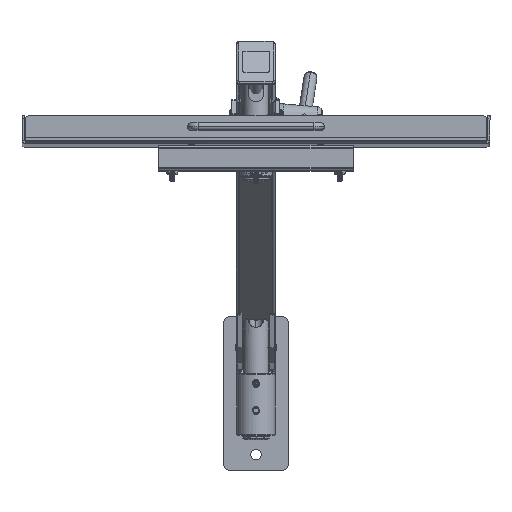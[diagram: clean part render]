
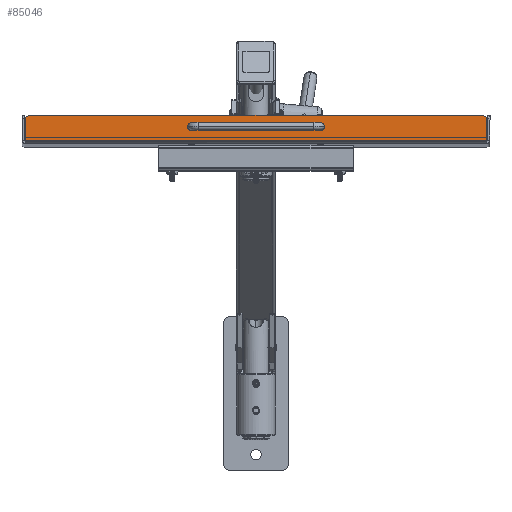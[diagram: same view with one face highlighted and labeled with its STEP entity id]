
A CAD part, top view. The second image highlights one B-rep face of the part: STEP entity #85046.
In plain terms, the highlighted planar face has unit normal (0, 0.011, 1) as drawn and (0, 0, 1) by its records, which use the part's own axes.
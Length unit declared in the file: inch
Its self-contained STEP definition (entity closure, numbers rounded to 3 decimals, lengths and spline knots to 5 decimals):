
#2576 = CARTESIAN_POINT ( 'NONE',  ( -8.75, 1., 6.09 ) ) ;
#2862 = VECTOR ( 'NONE', #50314, 39.37008 ) ;
#2929 = AXIS2_PLACEMENT_3D ( 'NONE', #56909, #63807, #28496 ) ;
#3552 = AXIS2_PLACEMENT_3D ( 'NONE', #79359, #36205, #51352 ) ;
#5333 = VECTOR ( 'NONE', #76548, 39.37008 ) ;
#6721 = ORIENTED_EDGE ( 'NONE', *, *, #22292, .F. ) ;
#7379 = CARTESIAN_POINT ( 'NONE',  ( -2.5, 0.55, 6.09 ) ) ;
#8152 = CARTESIAN_POINT ( 'NONE',  ( -2.5, 0.55, 6.09 ) ) ;
#9562 = VERTEX_POINT ( 'NONE', #2576 ) ;
#13638 = DIRECTION ( 'NONE',  ( 0., 0., -1. ) ) ;
#15781 = CARTESIAN_POINT ( 'NONE',  ( 2.5, 0.55, 6.09 ) ) ;
#15933 = CARTESIAN_POINT ( 'NONE',  ( 8.75, 0.032, 6.09 ) ) ;
#16311 = ORIENTED_EDGE ( 'NONE', *, *, #84801, .T. ) ;
#16567 = EDGE_LOOP ( 'NONE', ( #30482, #52041 ) ) ;
#18373 = VERTEX_POINT ( 'NONE', #84636 ) ;
#19620 = DIRECTION ( 'NONE',  ( 0., -1., 0. ) ) ;
#21323 = AXIS2_PLACEMENT_3D ( 'NONE', #8152, #57675, #22400 ) ;
#21849 = VERTEX_POINT ( 'NONE', #75746 ) ;
#21942 = CARTESIAN_POINT ( 'NONE',  ( 8.96464, 0.75, 6.09 ) ) ;
#22292 = EDGE_CURVE ( 'NONE', #26368, #9562, #36667, .T. ) ;
#22318 = CARTESIAN_POINT ( 'NONE',  ( 8.96464, 0.87817, 6.09 ) ) ;
#22400 = DIRECTION ( 'NONE',  ( -1., 0., 0. ) ) ;
#22972 = DIRECTION ( 'NONE',  ( 0., -1., 0. ) ) ;
#23557 = DIRECTION ( 'NONE',  ( 0., 0., -1. ) ) ;
#24300 = CARTESIAN_POINT ( 'NONE',  ( -8.96464, 0.87817, 6.09 ) ) ;
#24874 = AXIS2_PLACEMENT_3D ( 'NONE', #7379, #29847, #77145 ) ;
#24994 = LINE ( 'NONE', #80524, #42521 ) ;
#25665 = EDGE_LOOP ( 'NONE', ( #45968, #38953, #34542, #6721, #16311, #62554 ) ) ;
#26368 = VERTEX_POINT ( 'NONE', #24300 ) ;
#28496 = DIRECTION ( 'NONE',  ( 0., -1., 0. ) ) ;
#29373 = FACE_BOUND ( 'NONE', #16567, .T. ) ;
#29477 = EDGE_CURVE ( 'NONE', #9562, #21849, #59357, .T. ) ;
#29847 = DIRECTION ( 'NONE',  ( 0., 0., -1. ) ) ;
#30413 = AXIS2_PLACEMENT_3D ( 'NONE', #15781, #23557, #85494 ) ;
#30482 = ORIENTED_EDGE ( 'NONE', *, *, #74985, .T. ) ;
#31614 = CARTESIAN_POINT ( 'NONE',  ( -8.75, 0.75, 6.09 ) ) ;
#31842 = CIRCLE ( 'NONE', #30413, 0.1005 ) ;
#34542 = ORIENTED_EDGE ( 'NONE', *, *, #29477, .F. ) ;
#35204 = LINE ( 'NONE', #21942, #5333 ) ;
#36205 = DIRECTION ( 'NONE',  ( 0., 0., -1. ) ) ;
#36234 = FACE_BOUND ( 'NONE', #68472, .T. ) ;
#36667 = CIRCLE ( 'NONE', #66053, 0.25 ) ;
#36737 = EDGE_CURVE ( 'NONE', #54508, #18373, #60833, .T. ) ;
#37695 = VERTEX_POINT ( 'NONE', #56733 ) ;
#38953 = ORIENTED_EDGE ( 'NONE', *, *, #67899, .F. ) ;
#40528 = EDGE_CURVE ( 'NONE', #48808, #42799, #35204, .T. ) ;
#42521 = VECTOR ( 'NONE', #52060, 39.37008 ) ;
#42799 = VERTEX_POINT ( 'NONE', #87129 ) ;
#44479 = VECTOR ( 'NONE', #86921, 39.37008 ) ;
#44623 = CIRCLE ( 'NONE', #3552, 0.1005 ) ;
#45968 = ORIENTED_EDGE ( 'NONE', *, *, #40528, .F. ) ;
#46787 = CIRCLE ( 'NONE', #24874, 0.1005 ) ;
#47794 = EDGE_CURVE ( 'NONE', #37695, #67105, #44623, .T. ) ;
#48808 = VERTEX_POINT ( 'NONE', #22318 ) ;
#50314 = DIRECTION ( 'NONE',  ( 1., 0., 0. ) ) ;
#51352 = DIRECTION ( 'NONE',  ( -1., 0., 0. ) ) ;
#51368 = DIRECTION ( 'NONE',  ( 0., 0., -1. ) ) ;
#52040 = CARTESIAN_POINT ( 'NONE',  ( 8.75, 1., 6.09 ) ) ;
#52041 = ORIENTED_EDGE ( 'NONE', *, *, #47794, .T. ) ;
#52060 = DIRECTION ( 'NONE',  ( 0., -1., 0. ) ) ;
#54389 = CARTESIAN_POINT ( 'NONE',  ( -8.96464, 0.032, 6.09 ) ) ;
#54508 = VERTEX_POINT ( 'NONE', #68684 ) ;
#56733 = CARTESIAN_POINT ( 'NONE',  ( 2.3995, 0.55, 6.09 ) ) ;
#56909 = CARTESIAN_POINT ( 'NONE',  ( 8.75, 0.75, 6.09 ) ) ;
#57238 = CIRCLE ( 'NONE', #86724, 0.25 ) ;
#57675 = DIRECTION ( 'NONE',  ( 0., 0., -1. ) ) ;
#59357 = LINE ( 'NONE', #52040, #44479 ) ;
#60833 = CIRCLE ( 'NONE', #21323, 0.1005 ) ;
#62554 = ORIENTED_EDGE ( 'NONE', *, *, #63453, .T. ) ;
#63453 = EDGE_CURVE ( 'NONE', #85838, #42799, #78758, .T. ) ;
#63807 = DIRECTION ( 'NONE',  ( 0., 0., 1. ) ) ;
#66053 = AXIS2_PLACEMENT_3D ( 'NONE', #31614, #51368, #22972 ) ;
#67105 = VERTEX_POINT ( 'NONE', #67109 ) ;
#67109 = CARTESIAN_POINT ( 'NONE',  ( 2.6005, 0.55, 6.09 ) ) ;
#67899 = EDGE_CURVE ( 'NONE', #21849, #48808, #57238, .T. ) ;
#68120 = ORIENTED_EDGE ( 'NONE', *, *, #83175, .T. ) ;
#68472 = EDGE_LOOP ( 'NONE', ( #68120, #71945 ) ) ;
#68684 = CARTESIAN_POINT ( 'NONE',  ( -2.6005, 0.55, 6.09 ) ) ;
#71149 = FACE_OUTER_BOUND ( 'NONE', #25665, .T. ) ;
#71945 = ORIENTED_EDGE ( 'NONE', *, *, #36737, .T. ) ;
#72044 = PLANE ( 'NONE',  #2929 ) ;
#74985 = EDGE_CURVE ( 'NONE', #67105, #37695, #31842, .T. ) ;
#75746 = CARTESIAN_POINT ( 'NONE',  ( 8.75, 1., 6.09 ) ) ;
#76548 = DIRECTION ( 'NONE',  ( 0., -1., 0. ) ) ;
#77145 = DIRECTION ( 'NONE',  ( -1., 0., 0. ) ) ;
#78758 = LINE ( 'NONE', #15933, #2862 ) ;
#79359 = CARTESIAN_POINT ( 'NONE',  ( 2.5, 0.55, 6.09 ) ) ;
#80524 = CARTESIAN_POINT ( 'NONE',  ( -8.96464, 0.75, 6.09 ) ) ;
#83175 = EDGE_CURVE ( 'NONE', #18373, #54508, #46787, .T. ) ;
#84636 = CARTESIAN_POINT ( 'NONE',  ( -2.3995, 0.55, 6.09 ) ) ;
#84801 = EDGE_CURVE ( 'NONE', #26368, #85838, #24994, .T. ) ;
#85046 = ADVANCED_FACE ( 'NONE', ( #36234, #71149, #29373 ), #72044, .T. ) ;
#85494 = DIRECTION ( 'NONE',  ( -1., 0., 0. ) ) ;
#85838 = VERTEX_POINT ( 'NONE', #54389 ) ;
#86724 = AXIS2_PLACEMENT_3D ( 'NONE', #88883, #13638, #19620 ) ;
#86921 = DIRECTION ( 'NONE',  ( 1., 0., 0. ) ) ;
#87129 = CARTESIAN_POINT ( 'NONE',  ( 8.96464, 0.032, 6.09 ) ) ;
#88883 = CARTESIAN_POINT ( 'NONE',  ( 8.75, 0.75, 6.09 ) ) ;
